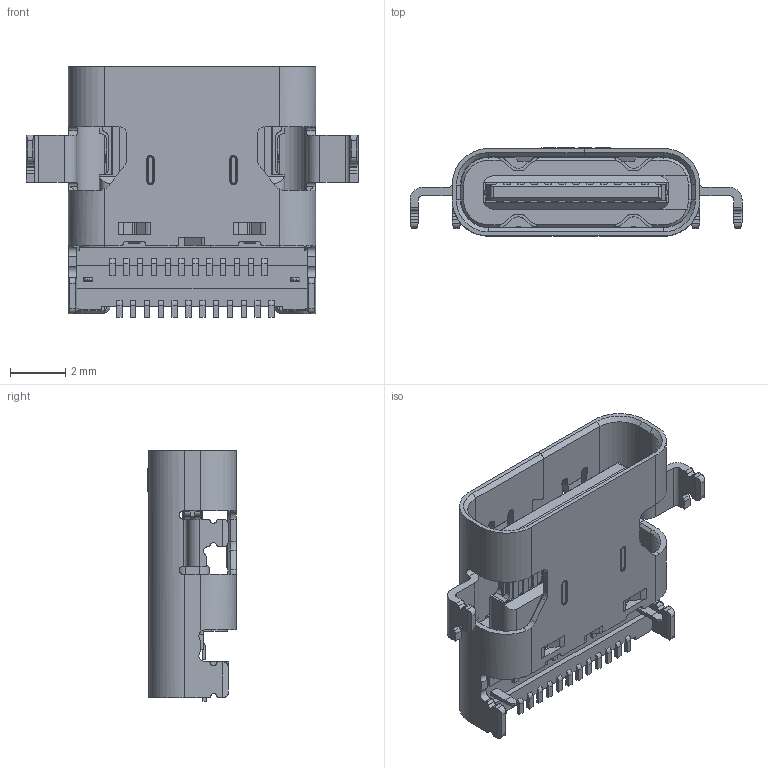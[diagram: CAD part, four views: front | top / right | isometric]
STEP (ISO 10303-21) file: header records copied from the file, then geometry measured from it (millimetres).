
FILE_DESCRIPTION((' '),'2;1');
FILE_NAME( 'U5196-24PN1.1C9.17LXX.stp', '2026-05-14T09:57:44', (' '), ('--- ---'), ' V2026.1 Dec 31 2025', ' 2026 (c)', ' ');
FILE_SCHEMA(('AP242_MANAGED_MODEL_BASED_3D_ENGINEERING_MIM_LF { 1 0 10303 442 1 1 4 }'));
Length unit declared in the file: millimetre
Products named in the file (1): HSG
Bounding box: 12 x 3.19 x 9.07 mm (x, y, z)
Volume: 114.4 mm3; surface area: 521.2 mm2
Topology: 1 solids, 1 shells, 1065 faces, 3112 edges, 2036 vertices
Faces by surface type: plane 708, cylinder 279, bspline 48, cone 30
Entity records: 37683 total; most frequent: CARTESIAN_POINT 10545, ORIENTED_EDGE 6224, DIRECTION 4823, EDGE_CURVE 3112, VECTOR 2309, LINE 2309, VERTEX_POINT 2036, AXIS2_PLACEMENT_3D 1257
